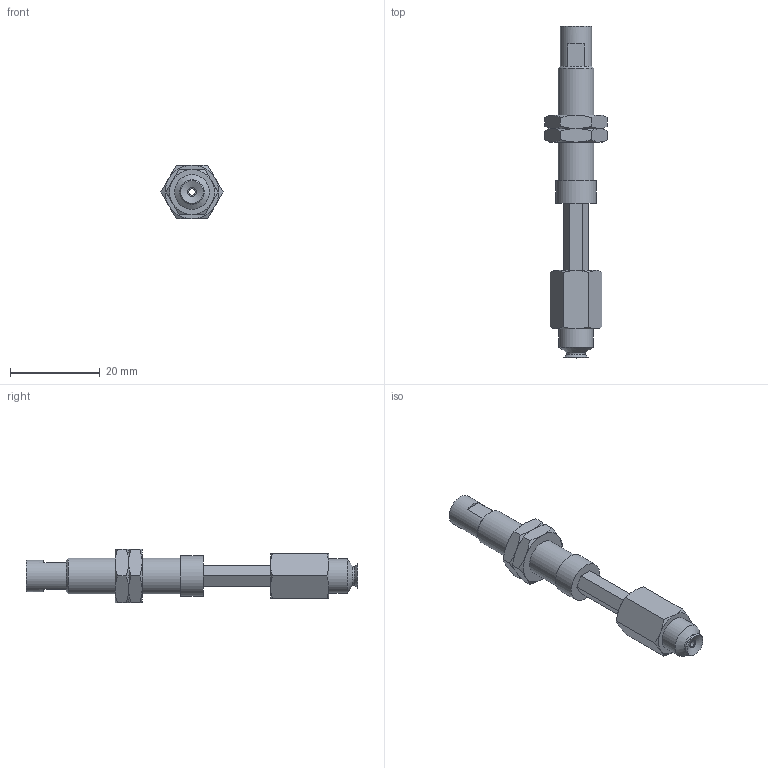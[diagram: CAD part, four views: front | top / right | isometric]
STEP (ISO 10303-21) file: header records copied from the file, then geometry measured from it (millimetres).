
FILE_DESCRIPTION(('STEP AP203'),'1');
FILE_NAME('.stp','2025-08-27T02:49:57',(' '),(' '),'Spatial InterOp 3D',' ',' ');
FILE_SCHEMA(('CONFIG_CONTROL_DESIGN'));
Length unit declared in the file: millimetre
Products named in the file (6): BNABPFTH-5A-15-※; ADAPTER; NAPATH-10A-15--M; Nut-5A-15-h; NAPFTH-5A-15-FBODY; BPFG-5A-※
Assembly tree (6 placements, depth 2):
  BNABPFTH-5A-15-※
    ADAPTER
    NAPATH-10A-15--M
    Nut-5A-15-h  x2
    NAPFTH-5A-15-FBODY
    BPFG-5A-※
Bounding box: 13.86 x 74 x 12 mm (x, y, z)
Volume: 3805.3 mm3; surface area: 4548.7 mm2
Topology: 6 solids, 6 shells, 122 faces, 264 edges, 160 vertices
Faces by surface type: plane 52, cone 46, cylinder 14, torus 9, bspline 1
Full cylindrical faces by diameter (mm): 1.4 x1, 2 x2, 4 x2, 4.134 x1, 6 x2, 7 x1, 7.188 x2, 7.7 x1, 8 x1, 9 x1
Entity records: 2983 total; most frequent: CARTESIAN_POINT 721, DIRECTION 408, ORIENTED_EDGE 352, EDGE_CURVE 176, AXIS2_PLACEMENT_3D 175, EDGE_LOOP 146, VERTEX_POINT 124, FACE_OUTER_BOUND 122
